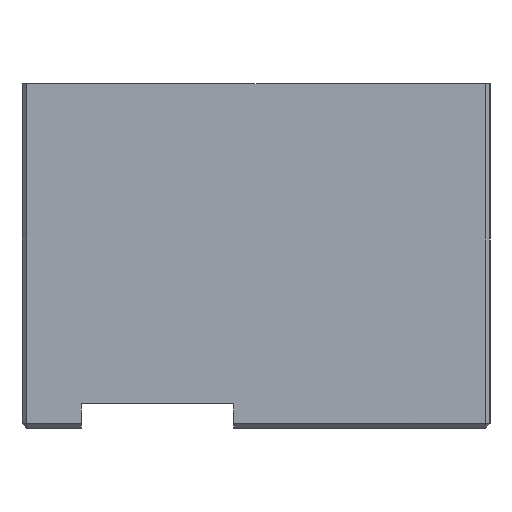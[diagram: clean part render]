
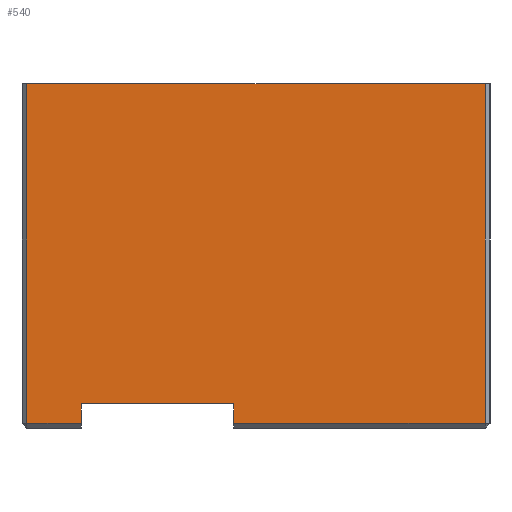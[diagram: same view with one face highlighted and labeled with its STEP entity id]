
A CAD part, left-side view. The second image highlights one B-rep face of the part: STEP entity #540.
In plain terms, the highlighted planar face has unit normal (-1, 0, 0).
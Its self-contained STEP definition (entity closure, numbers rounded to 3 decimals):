
#58=FACE_OUTER_BOUND('',#91,.T.);
#91=EDGE_LOOP('',(#417,#418,#419,#420,#421,#422,#423,#424));
#122=LINE('',#790,#182);
#135=LINE('',#817,#195);
#148=LINE('',#844,#208);
#152=LINE('',#851,#212);
#162=LINE('',#870,#222);
#163=LINE('',#872,#223);
#164=LINE('',#874,#224);
#165=LINE('',#875,#225);
#182=VECTOR('',#636,10.);
#195=VECTOR('',#659,10.);
#208=VECTOR('',#680,10.);
#212=VECTOR('',#686,10.);
#222=VECTOR('',#706,10.);
#223=VECTOR('',#707,10.);
#224=VECTOR('',#708,10.);
#225=VECTOR('',#709,10.);
#237=VERTEX_POINT('',#779);
#240=VERTEX_POINT('',#786);
#250=VERTEX_POINT('',#815);
#258=VERTEX_POINT('',#837);
#260=VERTEX_POINT('',#842);
#261=VERTEX_POINT('',#847);
#267=VERTEX_POINT('',#871);
#268=VERTEX_POINT('',#873);
#286=EDGE_CURVE('',#237,#240,#122,.T.);
#299=EDGE_CURVE('',#250,#237,#135,.T.);
#312=EDGE_CURVE('',#260,#258,#148,.T.);
#316=EDGE_CURVE('',#258,#261,#152,.T.);
#326=EDGE_CURVE('',#261,#250,#162,.T.);
#327=EDGE_CURVE('',#260,#267,#163,.T.);
#328=EDGE_CURVE('',#267,#268,#164,.T.);
#329=EDGE_CURVE('',#268,#240,#165,.T.);
#417=ORIENTED_EDGE('',*,*,#299,.F.);
#418=ORIENTED_EDGE('',*,*,#326,.F.);
#419=ORIENTED_EDGE('',*,*,#316,.F.);
#420=ORIENTED_EDGE('',*,*,#312,.F.);
#421=ORIENTED_EDGE('',*,*,#327,.T.);
#422=ORIENTED_EDGE('',*,*,#328,.T.);
#423=ORIENTED_EDGE('',*,*,#329,.T.);
#424=ORIENTED_EDGE('',*,*,#286,.F.);
#513=PLANE('',#596);
#540=ADVANCED_FACE('',(#58),#513,.T.);
#596=AXIS2_PLACEMENT_3D('',#869,#704,#705);
#636=DIRECTION('',(0.,1.,0.));
#659=DIRECTION('',(0.,0.,-1.));
#680=DIRECTION('',(0.,1.,0.));
#686=DIRECTION('',(0.,0.,1.));
#704=DIRECTION('center_axis',(-1.,0.,0.));
#705=DIRECTION('ref_axis',(0.,-1.,0.));
#706=DIRECTION('',(0.,-1.,0.));
#707=DIRECTION('',(0.,0.,1.));
#708=DIRECTION('',(0.,-1.,0.));
#709=DIRECTION('',(0.,0.,-1.));
#779=CARTESIAN_POINT('',(-17.,-9.3,0.2));
#786=CARTESIAN_POINT('',(-17.,0.9,0.2));
#790=CARTESIAN_POINT('',(-17.,4.15,0.2));
#815=CARTESIAN_POINT('',(-17.,-9.3,14.));
#817=CARTESIAN_POINT('',(-17.,-9.3,0.));
#837=CARTESIAN_POINT('',(-17.,9.3,0.2));
#842=CARTESIAN_POINT('',(-17.,7.1,0.2));
#844=CARTESIAN_POINT('',(-17.,4.15,0.2));
#847=CARTESIAN_POINT('',(-17.,9.3,14.));
#851=CARTESIAN_POINT('',(-17.,9.3,0.));
#869=CARTESIAN_POINT('Origin',(-17.,9.5,0.));
#870=CARTESIAN_POINT('',(-17.,9.5,14.));
#871=CARTESIAN_POINT('',(-17.,7.1,1.));
#872=CARTESIAN_POINT('',(-17.,7.1,0.));
#873=CARTESIAN_POINT('',(-17.,0.9,1.));
#874=CARTESIAN_POINT('',(-17.,6.75,1.));
#875=CARTESIAN_POINT('',(-17.,0.9,0.));
